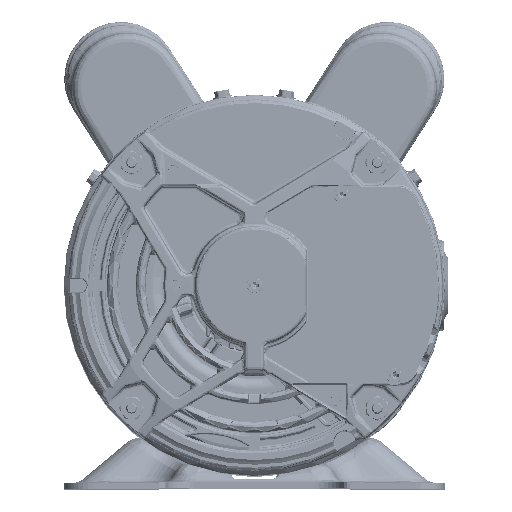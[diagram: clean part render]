
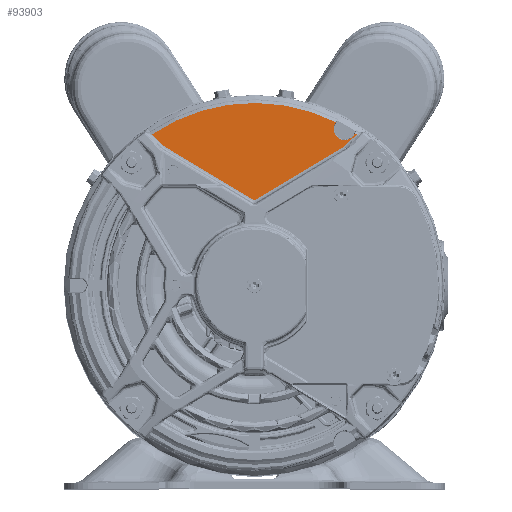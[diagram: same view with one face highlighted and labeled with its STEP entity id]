
A CAD part, top view. The second image highlights one B-rep face of the part: STEP entity #93903.
In plain terms, the highlighted planar face has unit normal (0, 0, 1).
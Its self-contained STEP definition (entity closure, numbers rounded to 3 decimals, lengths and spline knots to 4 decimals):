
#18793 = CARTESIAN_POINT ( 'NONE',  ( 1.6758, 2.5087, 12.9244 ) ) ;
#21272 = VERTEX_POINT ( 'NONE', #78888 ) ;
#25281 = FACE_OUTER_BOUND ( 'NONE', #631659, .T. ) ;
#26451 = ORIENTED_EDGE ( 'NONE', *, *, #485357, .T. ) ;
#38477 = VECTOR ( 'NONE', #774691, 39.3701 ) ;
#41103 = CARTESIAN_POINT ( 'NONE',  ( 1.716, 2.5924, 12.9244 ) ) ;
#44273 = CARTESIAN_POINT ( 'NONE',  ( -1.5338, 2.3689, 12.9244 ) ) ;
#54589 = DIRECTION ( 'NONE',  ( 0.857, -0.515, 0. ) ) ;
#59606 = CIRCLE ( 'NONE', #646706, 0.1899 ) ;
#77987 = LINE ( 'NONE', #338953, #413859 ) ;
#78149 = CARTESIAN_POINT ( 'NONE',  ( -1.5319, 2.3674, 12.9244 ) ) ;
#78888 = CARTESIAN_POINT ( 'NONE',  ( 1.6415, 2.4758, 12.9244 ) ) ;
#85191 = CARTESIAN_POINT ( 'NONE',  ( -1.7407, 2.5758, 12.9244 ) ) ;
#92041 = VERTEX_POINT ( 'NONE', #664549 ) ;
#93903 = ADVANCED_FACE ( 'NONE', ( #25281 ), #540220, .T. ) ;
#102314 = DIRECTION ( 'NONE',  ( 0., 0., -1. ) ) ;
#114784 = VERTEX_POINT ( 'NONE', #235100 ) ;
#116540 = CARTESIAN_POINT ( 'NONE',  ( 1.5319, 2.3674, 12.9244 ) ) ;
#117037 = CARTESIAN_POINT ( 'NONE',  ( 1.5993, 2.4344, 12.9244 ) ) ;
#125868 = VERTEX_POINT ( 'NONE', #337330 ) ;
#127299 = CIRCLE ( 'NONE', #553903, 3.1089 ) ;
#129127 = ORIENTED_EDGE ( 'NONE', *, *, #421935, .T. ) ;
#131183 = EDGE_CURVE ( 'NONE', #160154, #114784, #614383, .T. ) ;
#140145 = EDGE_CURVE ( 'NONE', #376192, #465470, #711578, .T. ) ;
#145352 = VERTEX_POINT ( 'NONE', #41103 ) ;
#156216 = ORIENTED_EDGE ( 'NONE', *, *, #216411, .T. ) ;
#160154 = VERTEX_POINT ( 'NONE', #472251 ) ;
#164610 = CARTESIAN_POINT ( 'NONE',  ( 0., 0., 12.9244 ) ) ;
#173613 = ORIENTED_EDGE ( 'NONE', *, *, #655536, .T. ) ;
#192017 = EDGE_CURVE ( 'NONE', #21272, #443883, #788007, .T. ) ;
#201147 = EDGE_CURVE ( 'NONE', #92041, #218946, #127299, .T. ) ;
#203672 = CARTESIAN_POINT ( 'NONE',  ( 0.0019, 1.4476, 12.9244 ) ) ;
#206723 = CARTESIAN_POINT ( 'NONE',  ( 1.6415, 2.4758, 12.9244 ) ) ;
#207564 = DIRECTION ( 'NONE',  ( 0.5, 0.866, 0. ) ) ;
#212859 = CARTESIAN_POINT ( 'NONE',  ( -0.1645, 0.0949, 12.9244 ) ) ;
#216411 = EDGE_CURVE ( 'NONE', #244441, #92041, #337719, .T. ) ;
#218946 = VERTEX_POINT ( 'NONE', #85191 ) ;
#224059 = CARTESIAN_POINT ( 'NONE',  ( -1.5341, 2.3692, 12.9244 ) ) ;
#234904 = ORIENTED_EDGE ( 'NONE', *, *, #451011, .T. ) ;
#235100 = CARTESIAN_POINT ( 'NONE',  ( 0.0051, 1.4495, 12.9244 ) ) ;
#235184 = CARTESIAN_POINT ( 'NONE',  ( 1.5338, 2.3689, 12.9244 ) ) ;
#238586 = ORIENTED_EDGE ( 'NONE', *, *, #192017, .T. ) ;
#240972 = VERTEX_POINT ( 'NONE', #78149 ) ;
#244441 = VERTEX_POINT ( 'NONE', #785471 ) ;
#251096 = AXIS2_PLACEMENT_3D ( 'NONE', #164610, #787615, #602163 ) ;
#260771 = VECTOR ( 'NONE', #207564, 39.3701 ) ;
#262449 = CARTESIAN_POINT ( 'NONE',  ( 1.5326, 2.3678, 12.9244 ) ) ;
#281819 = DIRECTION ( 'NONE',  ( 0., 0., 1. ) ) ;
#294036 = ORIENTED_EDGE ( 'NONE', *, *, #201147, .T. ) ;
#294339 = CARTESIAN_POINT ( 'NONE',  ( 1.6273, 2.4622, 12.9244 ) ) ;
#324106 = CARTESIAN_POINT ( 'NONE',  ( 1.5332, 2.3683, 12.9244 ) ) ;
#336855 = ORIENTED_EDGE ( 'NONE', *, *, #600505, .T. ) ;
#336968 = VECTOR ( 'NONE', #670442, 39.3701 ) ;
#337330 = CARTESIAN_POINT ( 'NONE',  ( -1.5338, 2.3689, 12.9244 ) ) ;
#337719 = LINE ( 'NONE', #212859, #260771 ) ;
#338953 = CARTESIAN_POINT ( 'NONE',  ( 0.1645, -0.0949, 12.9244 ) ) ;
#343395 = CARTESIAN_POINT ( 'NONE',  ( 1.5315, 2.3671, 12.9244 ) ) ;
#355074 = CARTESIAN_POINT ( 'NONE',  ( 1.7471, 2.5715, 12.9244 ) ) ;
#370477 = CIRCLE ( 'NONE', #689111, 3.1089 ) ;
#376192 = VERTEX_POINT ( 'NONE', #235184 ) ;
#378241 = LINE ( 'NONE', #343395, #445397 ) ;
#380924 = ORIENTED_EDGE ( 'NONE', *, *, #569636, .T. ) ;
#383429 = ORIENTED_EDGE ( 'NONE', *, *, #612948, .T. ) ;
#384724 = ORIENTED_EDGE ( 'NONE', *, *, #131183, .T. ) ;
#387551 = ORIENTED_EDGE ( 'NONE', *, *, #679113, .T. ) ;
#413345 = DIRECTION ( 'NONE',  ( 1., 0., 0. ) ) ;
#413688 = LINE ( 'NONE', #224059, #38477 ) ;
#413859 = VECTOR ( 'NONE', #768847, 39.3701 ) ;
#418703 = B_SPLINE_CURVE_WITH_KNOTS ( 'NONE', 3,
 ( #117037, #667576, #294339, #670205 ),
 .UNSPECIFIED., .F., .F.,
 ( 4, 4 ),
 ( 0., 0.0015 ),
 .UNSPECIFIED. ) ;
#421935 = EDGE_CURVE ( 'NONE', #784824, #376192, #717868, .T. ) ;
#422342 = CARTESIAN_POINT ( 'NONE',  ( -0.0072, 1.4508, 12.9244 ) ) ;
#425834 = ORIENTED_EDGE ( 'NONE', *, *, #701765, .T. ) ;
#431581 = VERTEX_POINT ( 'NONE', #725344 ) ;
#443883 = VERTEX_POINT ( 'NONE', #355074 ) ;
#445397 = VECTOR ( 'NONE', #708735, 39.3701 ) ;
#451011 = EDGE_CURVE ( 'NONE', #465470, #21272, #418703, .T. ) ;
#465470 = VERTEX_POINT ( 'NONE', #474665 ) ;
#472251 = CARTESIAN_POINT ( 'NONE',  ( -0.0051, 1.4495, 12.9244 ) ) ;
#474665 = CARTESIAN_POINT ( 'NONE',  ( 1.5993, 2.4344, 12.9244 ) ) ;
#476507 = CARTESIAN_POINT ( 'NONE',  ( -1.5319, 2.3674, 12.9244 ) ) ;
#485357 = EDGE_CURVE ( 'NONE', #125868, #240972, #689719, .T. ) ;
#509692 = CARTESIAN_POINT ( 'NONE',  ( -0.0051, 1.4495, 12.9244 ) ) ;
#526472 = DIRECTION ( 'NONE',  ( 1., 0., 0. ) ) ;
#540220 = PLANE ( 'NONE',  #251096 ) ;
#543384 = CARTESIAN_POINT ( 'NONE',  ( -1.5332, 2.3683, 12.9244 ) ) ;
#548125 = DIRECTION ( 'NONE',  ( 0., 0., 1. ) ) ;
#553903 = AXIS2_PLACEMENT_3D ( 'NONE', #677079, #548125, #617984 ) ;
#569636 = EDGE_CURVE ( 'NONE', #218946, #125868, #413688, .T. ) ;
#571442 = CARTESIAN_POINT ( 'NONE',  ( -0.0019, 1.4476, 12.9244 ) ) ;
#571862 = CARTESIAN_POINT ( 'NONE',  ( 1.7471, 2.5715, 12.9244 ) ) ;
#594240 = ORIENTED_EDGE ( 'NONE', *, *, #140145, .T. ) ;
#600505 = EDGE_CURVE ( 'NONE', #114784, #784824, #378241, .T. ) ;
#600745 = CARTESIAN_POINT ( 'NONE',  ( 1.7468, 2.5818, 12.9244 ) ) ;
#602163 = DIRECTION ( 'NONE',  ( 1., 0., 0. ) ) ;
#612948 = EDGE_CURVE ( 'NONE', #431581, #244441, #59606, .T. ) ;
#614383 =( BOUNDED_CURVE ( )  B_SPLINE_CURVE ( 3, ( #509692, #571442, #203672, #633192 ),
 .UNSPECIFIED., .F., .F. ) 
 B_SPLINE_CURVE_WITH_KNOTS ( ( 4, 4 ),
 ( 2.6026, 3.6806 ),
 .UNSPECIFIED. ) 
 CURVE ( )  GEOMETRIC_REPRESENTATION_ITEM ( )  RATIONAL_B_SPLINE_CURVE ( ( 1., 0.905, 0.905, 1. ) ) 
 REPRESENTATION_ITEM ( '' )  );
#617984 = DIRECTION ( 'NONE',  ( 1., 0., 0. ) ) ;
#631659 = EDGE_LOOP ( 'NONE', ( #173613, #425834, #383429, #156216, #294036, #380924, #26451, #387551, #384724, #336855, #129127, #594240, #234904, #238586 ) ) ;
#633192 = CARTESIAN_POINT ( 'NONE',  ( 0.0051, 1.4495, 12.9244 ) ) ;
#635053 = LINE ( 'NONE', #422342, #779350 ) ;
#646706 = AXIS2_PLACEMENT_3D ( 'NONE', #714591, #102314, #526472 ) ;
#655536 = EDGE_CURVE ( 'NONE', #443883, #145352, #370477, .T. ) ;
#664549 = CARTESIAN_POINT ( 'NONE',  ( 1.3871, 2.7823, 12.9244 ) ) ;
#667576 = CARTESIAN_POINT ( 'NONE',  ( 1.6133, 2.4484, 12.9244 ) ) ;
#670205 = CARTESIAN_POINT ( 'NONE',  ( 1.6415, 2.4758, 12.9244 ) ) ;
#670442 = DIRECTION ( 'NONE',  ( 0.707, 0.707, 0. ) ) ;
#677079 = CARTESIAN_POINT ( 'NONE',  ( 0., 0., 12.9244 ) ) ;
#679113 = EDGE_CURVE ( 'NONE', #240972, #160154, #635053, .T. ) ;
#689111 = AXIS2_PLACEMENT_3D ( 'NONE', #781392, #281819, #413345 ) ;
#689719 =( BOUNDED_CURVE ( )  B_SPLINE_CURVE ( 3, ( #44273, #543384, #726299, #476507 ),
 .UNSPECIFIED., .F., .F. ) 
 B_SPLINE_CURVE_WITH_KNOTS ( ( 4, 4 ),
 ( 3.02, 3.2632 ),
 .UNSPECIFIED. ) 
 CURVE ( )  GEOMETRIC_REPRESENTATION_ITEM ( )  RATIONAL_B_SPLINE_CURVE ( ( 1., 0.995, 0.995, 1. ) ) 
 REPRESENTATION_ITEM ( '' )  );
#700043 = CARTESIAN_POINT ( 'NONE',  ( 1.5319, 2.3674, 12.9244 ) ) ;
#701765 = EDGE_CURVE ( 'NONE', #145352, #431581, #77987, .T. ) ;
#708735 = DIRECTION ( 'NONE',  ( 0.857, 0.515, 0. ) ) ;
#711578 = LINE ( 'NONE', #600745, #336968 ) ;
#714591 = CARTESIAN_POINT ( 'NONE',  ( 1.539, 2.6656, 12.9244 ) ) ;
#717868 =( BOUNDED_CURVE ( )  B_SPLINE_CURVE ( 3, ( #700043, #262449, #324106, #761887 ),
 .UNSPECIFIED., .F., .F. ) 
 B_SPLINE_CURVE_WITH_KNOTS ( ( 4, 4 ),
 ( 3.02, 3.2632 ),
 .UNSPECIFIED. ) 
 CURVE ( )  GEOMETRIC_REPRESENTATION_ITEM ( )  RATIONAL_B_SPLINE_CURVE ( ( 1., 0.995, 0.995, 1. ) ) 
 REPRESENTATION_ITEM ( '' )  );
#725344 = CARTESIAN_POINT ( 'NONE',  ( 1.7035, 2.5707, 12.9244 ) ) ;
#726299 = CARTESIAN_POINT ( 'NONE',  ( -1.5326, 2.3678, 12.9244 ) ) ;
#754685 = CARTESIAN_POINT ( 'NONE',  ( 1.7109, 2.5407, 12.9244 ) ) ;
#761887 = CARTESIAN_POINT ( 'NONE',  ( 1.5338, 2.3689, 12.9244 ) ) ;
#768847 = DIRECTION ( 'NONE',  ( -0.5, -0.866, 0. ) ) ;
#774691 = DIRECTION ( 'NONE',  ( 0.707, -0.707, 0. ) ) ;
#779350 = VECTOR ( 'NONE', #54589, 39.3701 ) ;
#781392 = CARTESIAN_POINT ( 'NONE',  ( 0., 0., 12.9244 ) ) ;
#784824 = VERTEX_POINT ( 'NONE', #116540 ) ;
#785471 = CARTESIAN_POINT ( 'NONE',  ( 1.3745, 2.7606, 12.9244 ) ) ;
#787615 = DIRECTION ( 'NONE',  ( 0., 0., 1. ) ) ;
#788007 = B_SPLINE_CURVE_WITH_KNOTS ( 'NONE', 3,
 ( #206723, #18793, #754685, #571862 ),
 .UNSPECIFIED., .F., .F.,
 ( 4, 4 ),
 ( 0., 0.0036 ),
 .UNSPECIFIED. ) ;
